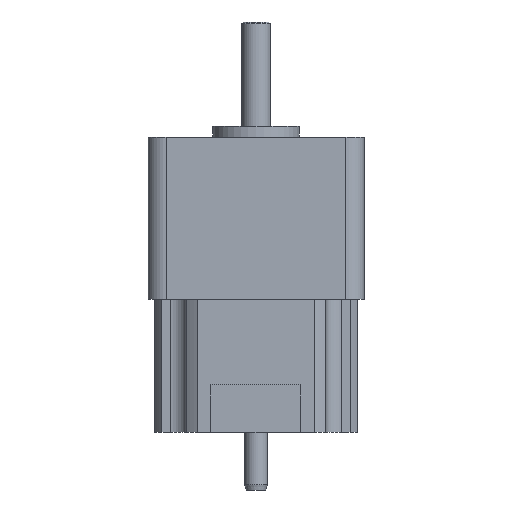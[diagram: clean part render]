
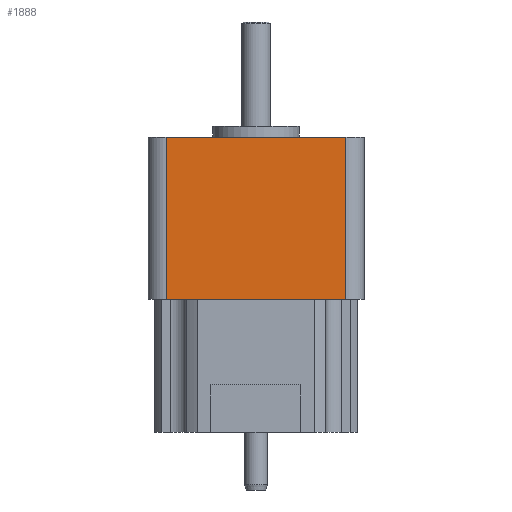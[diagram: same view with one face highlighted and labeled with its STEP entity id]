
A CAD part, front view. The second image highlights one B-rep face of the part: STEP entity #1888.
In plain terms, the highlighted planar face has unit normal (0, -1, 0).
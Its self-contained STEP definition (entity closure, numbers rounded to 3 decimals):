
#16 = CARTESIAN_POINT ( 'NONE',  ( 25., -40., -45. ) ) ;
#66 = EDGE_CURVE ( 'NONE', #1406, #1556, #301, .T. ) ;
#161 = CARTESIAN_POINT ( 'NONE',  ( -25., -40., -45. ) ) ;
#177 = CARTESIAN_POINT ( 'NONE',  ( 25., -40., 0. ) ) ;
#205 = DIRECTION ( 'NONE',  ( -1., 0., 0. ) ) ;
#217 = VECTOR ( 'NONE', #416, 1000. ) ;
#296 = VECTOR ( 'NONE', #1921, 1000. ) ;
#301 = LINE ( 'NONE', #1779, #1187 ) ;
#334 = EDGE_CURVE ( 'NONE', #1803, #337, #1262, .T. ) ;
#337 = VERTEX_POINT ( 'NONE', #1996 ) ;
#416 = DIRECTION ( 'NONE',  ( 0., 0., 1. ) ) ;
#670 = ORIENTED_EDGE ( 'NONE', *, *, #66, .F. ) ;
#721 = DIRECTION ( 'NONE',  ( 0., 0., 1. ) ) ;
#730 = PLANE ( 'NONE',  #805 ) ;
#784 = CARTESIAN_POINT ( 'NONE',  ( 25., -40., -45. ) ) ;
#805 = AXIS2_PLACEMENT_3D ( 'NONE', #16, #1771, #721 ) ;
#882 = ORIENTED_EDGE ( 'NONE', *, *, #1704, .F. ) ;
#966 = VECTOR ( 'NONE', #1117, 1000. ) ;
#1029 = CARTESIAN_POINT ( 'NONE',  ( 25., -40., -45. ) ) ;
#1099 = CARTESIAN_POINT ( 'NONE',  ( 25., -40., 0. ) ) ;
#1117 = DIRECTION ( 'NONE',  ( -1., 0., 0. ) ) ;
#1155 = LINE ( 'NONE', #1029, #296 ) ;
#1187 = VECTOR ( 'NONE', #205, 1000. ) ;
#1223 = CARTESIAN_POINT ( 'NONE',  ( -25., -40., -45. ) ) ;
#1262 = LINE ( 'NONE', #1099, #966 ) ;
#1320 = EDGE_CURVE ( 'NONE', #1406, #1803, #1155, .T. ) ;
#1387 = ORIENTED_EDGE ( 'NONE', *, *, #334, .T. ) ;
#1406 = VERTEX_POINT ( 'NONE', #784 ) ;
#1556 = VERTEX_POINT ( 'NONE', #161 ) ;
#1704 = EDGE_CURVE ( 'NONE', #1556, #337, #1767, .T. ) ;
#1767 = LINE ( 'NONE', #1223, #217 ) ;
#1769 = ORIENTED_EDGE ( 'NONE', *, *, #1320, .T. ) ;
#1771 = DIRECTION ( 'NONE',  ( 0., 1., 0. ) ) ;
#1779 = CARTESIAN_POINT ( 'NONE',  ( 25., -40., -45. ) ) ;
#1803 = VERTEX_POINT ( 'NONE', #177 ) ;
#1888 = ADVANCED_FACE ( 'NONE', ( #2056 ), #730, .F. ) ;
#1921 = DIRECTION ( 'NONE',  ( 0., 0., 1. ) ) ;
#1941 = EDGE_LOOP ( 'NONE', ( #1387, #882, #670, #1769 ) ) ;
#1996 = CARTESIAN_POINT ( 'NONE',  ( -25., -40., 0. ) ) ;
#2056 = FACE_OUTER_BOUND ( 'NONE', #1941, .T. ) ;
